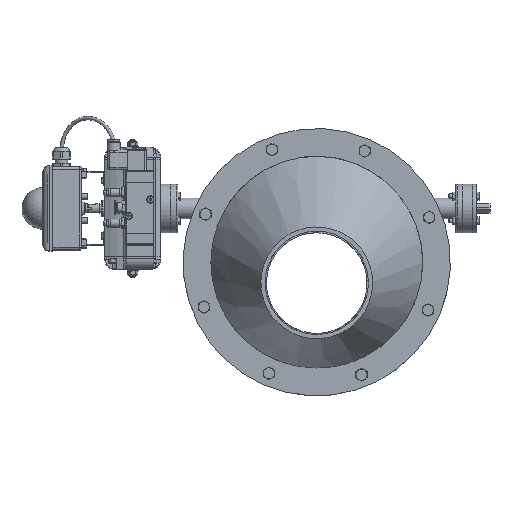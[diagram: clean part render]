
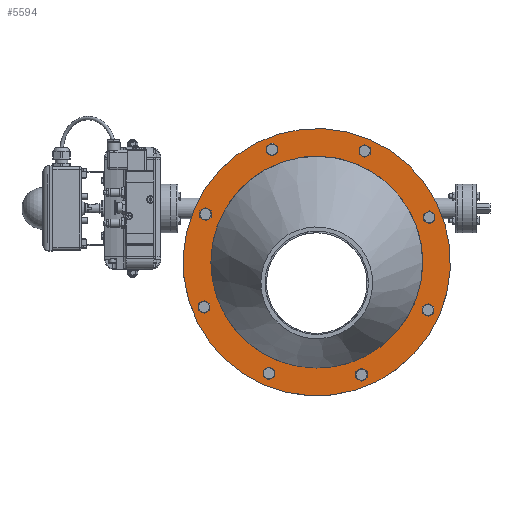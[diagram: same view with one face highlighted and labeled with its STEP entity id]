
A CAD part, top view. The second image highlights one B-rep face of the part: STEP entity #5594.
In plain terms, the highlighted planar face has unit normal (0, 0, 1) as drawn and (0, 0, -1) by its records, which use the part's own axes.
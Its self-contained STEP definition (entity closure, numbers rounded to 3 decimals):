
#5101=CARTESIAN_POINT('',(-5.731,-174.5,0.0));
#5102=VERTEX_POINT('',#5101);
#5103=CARTESIAN_POINT('',(0.019,-174.5,0.0));
#5104=DIRECTION('',(0.0,0.0,1.0));
#5105=DIRECTION('',(1.0,0.0,0.0));
#5106=AXIS2_PLACEMENT_3D('',#5103,#5104,#5105);
#5107=CIRCLE('',#5106,5.75);
#5108=EDGE_CURVE('',#5102,#5102,#5107,.T.);
#5150=CARTESIAN_POINT('',(117.654,-123.376,0.0));
#5151=VERTEX_POINT('',#5150);
#5152=CARTESIAN_POINT('',(123.404,-123.376,0.0));
#5153=DIRECTION('',(0.0,0.0,1.0));
#5154=DIRECTION('',(1.0,0.0,0.0));
#5155=AXIS2_PLACEMENT_3D('',#5152,#5153,#5154);
#5156=CIRCLE('',#5155,5.75);
#5157=EDGE_CURVE('',#5151,#5151,#5156,.T.);
#5199=CARTESIAN_POINT('',(168.75,0.019,0.0));
#5200=VERTEX_POINT('',#5199);
#5201=CARTESIAN_POINT('',(174.5,0.019,0.0));
#5202=DIRECTION('',(0.0,0.0,1.0));
#5203=DIRECTION('',(1.0,0.0,0.0));
#5204=AXIS2_PLACEMENT_3D('',#5201,#5202,#5203);
#5205=CIRCLE('',#5204,5.75);
#5206=EDGE_CURVE('',#5200,#5200,#5205,.T.);
#5248=CARTESIAN_POINT('',(117.626,123.404,0.0));
#5249=VERTEX_POINT('',#5248);
#5250=CARTESIAN_POINT('',(123.376,123.404,0.0));
#5251=DIRECTION('',(0.0,0.0,1.0));
#5252=DIRECTION('',(1.0,0.0,0.0));
#5253=AXIS2_PLACEMENT_3D('',#5250,#5251,#5252);
#5254=CIRCLE('',#5253,5.75);
#5255=EDGE_CURVE('',#5249,#5249,#5254,.T.);
#5297=CARTESIAN_POINT('',(-129.126,-123.404,0.0));
#5298=VERTEX_POINT('',#5297);
#5299=CARTESIAN_POINT('',(-123.376,-123.404,0.0));
#5300=DIRECTION('',(0.0,0.0,1.0));
#5301=DIRECTION('',(1.0,0.0,0.0));
#5302=AXIS2_PLACEMENT_3D('',#5299,#5300,#5301);
#5303=CIRCLE('',#5302,5.75);
#5304=EDGE_CURVE('',#5298,#5298,#5303,.T.);
#5346=CARTESIAN_POINT('',(-180.25,-0.019,0.0));
#5347=VERTEX_POINT('',#5346);
#5348=CARTESIAN_POINT('',(-174.5,-0.019,0.0));
#5349=DIRECTION('',(0.0,0.0,1.0));
#5350=DIRECTION('',(1.0,0.0,0.0));
#5351=AXIS2_PLACEMENT_3D('',#5348,#5349,#5350);
#5352=CIRCLE('',#5351,5.75);
#5353=EDGE_CURVE('',#5347,#5347,#5352,.T.);
#5395=CARTESIAN_POINT('',(-129.154,123.376,0.0));
#5396=VERTEX_POINT('',#5395);
#5397=CARTESIAN_POINT('',(-123.404,123.376,0.0));
#5398=DIRECTION('',(0.0,0.0,1.0));
#5399=DIRECTION('',(1.0,0.0,0.0));
#5400=AXIS2_PLACEMENT_3D('',#5397,#5398,#5399);
#5401=CIRCLE('',#5400,5.75);
#5402=EDGE_CURVE('',#5396,#5396,#5401,.T.);
#5444=CARTESIAN_POINT('',(-5.769,174.5,0.0));
#5445=VERTEX_POINT('',#5444);
#5446=CARTESIAN_POINT('',(-0.019,174.5,0.0));
#5447=DIRECTION('',(0.0,0.0,1.0));
#5448=DIRECTION('',(1.0,0.0,0.0));
#5449=AXIS2_PLACEMENT_3D('',#5446,#5447,#5448);
#5450=CIRCLE('',#5449,5.75);
#5451=EDGE_CURVE('',#5445,#5445,#5450,.T.);
#5483=CARTESIAN_POINT('',(152.5,0.,0.0));
#5484=VERTEX_POINT('',#5483);
#5485=CARTESIAN_POINT('',(0.0,0.0,0.0));
#5486=DIRECTION('',(0.0,0.0,1.0));
#5487=DIRECTION('',(-1.0,0.0,0.0));
#5488=AXIS2_PLACEMENT_3D('',#5485,#5486,#5487);
#5489=CIRCLE('',#5488,152.5);
#5490=EDGE_CURVE('',#5484,#5484,#5489,.T.);
#5511=CARTESIAN_POINT('',(192.5,0.,0.0));
#5512=VERTEX_POINT('',#5511);
#5513=CARTESIAN_POINT('',(0.0,0.0,0.0));
#5514=DIRECTION('',(0.0,0.0,-1.0));
#5515=DIRECTION('',(-1.0,0.0,0.0));
#5516=AXIS2_PLACEMENT_3D('',#5513,#5514,#5515);
#5517=CIRCLE('',#5516,192.5);
#5518=EDGE_CURVE('',#5512,#5512,#5517,.T.);
#5559=CARTESIAN_POINT('',(0.0,0.0,0.0));
#5560=DIRECTION('',(0.0,0.0,-1.0));
#5561=DIRECTION('',(-1.0,0.0,0.0));
#5562=AXIS2_PLACEMENT_3D('',#5559,#5560,#5561);
#5563=PLANE('',#5562);
#5564=ORIENTED_EDGE('',*,*,#5518,.T.);
#5565=EDGE_LOOP('',(#5564));
#5566=FACE_OUTER_BOUND('',#5565,.T.);
#5567=ORIENTED_EDGE('',*,*,#5108,.T.);
#5568=EDGE_LOOP('',(#5567));
#5569=FACE_BOUND('',#5568,.T.);
#5570=ORIENTED_EDGE('',*,*,#5157,.T.);
#5571=EDGE_LOOP('',(#5570));
#5572=FACE_BOUND('',#5571,.T.);
#5573=ORIENTED_EDGE('',*,*,#5206,.T.);
#5574=EDGE_LOOP('',(#5573));
#5575=FACE_BOUND('',#5574,.T.);
#5576=ORIENTED_EDGE('',*,*,#5255,.T.);
#5577=EDGE_LOOP('',(#5576));
#5578=FACE_BOUND('',#5577,.T.);
#5579=ORIENTED_EDGE('',*,*,#5304,.T.);
#5580=EDGE_LOOP('',(#5579));
#5581=FACE_BOUND('',#5580,.T.);
#5582=ORIENTED_EDGE('',*,*,#5353,.T.);
#5583=EDGE_LOOP('',(#5582));
#5584=FACE_BOUND('',#5583,.T.);
#5585=ORIENTED_EDGE('',*,*,#5402,.T.);
#5586=EDGE_LOOP('',(#5585));
#5587=FACE_BOUND('',#5586,.T.);
#5588=ORIENTED_EDGE('',*,*,#5451,.T.);
#5589=EDGE_LOOP('',(#5588));
#5590=FACE_BOUND('',#5589,.T.);
#5591=ORIENTED_EDGE('',*,*,#5490,.T.);
#5592=EDGE_LOOP('',(#5591));
#5593=FACE_BOUND('',#5592,.T.);
#5594=ADVANCED_FACE('',(#5566,#5569,#5572,#5575,#5578,#5581,#5584,#5587,#5590,#5593),#5563,.T.);
